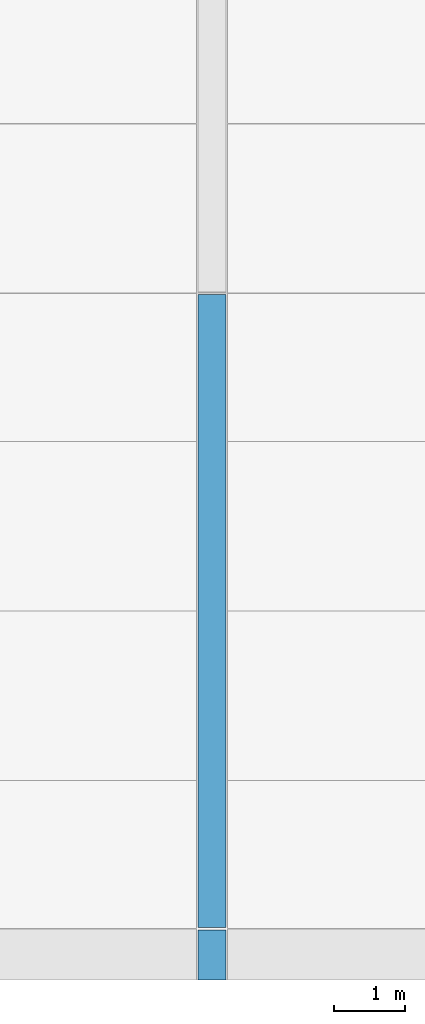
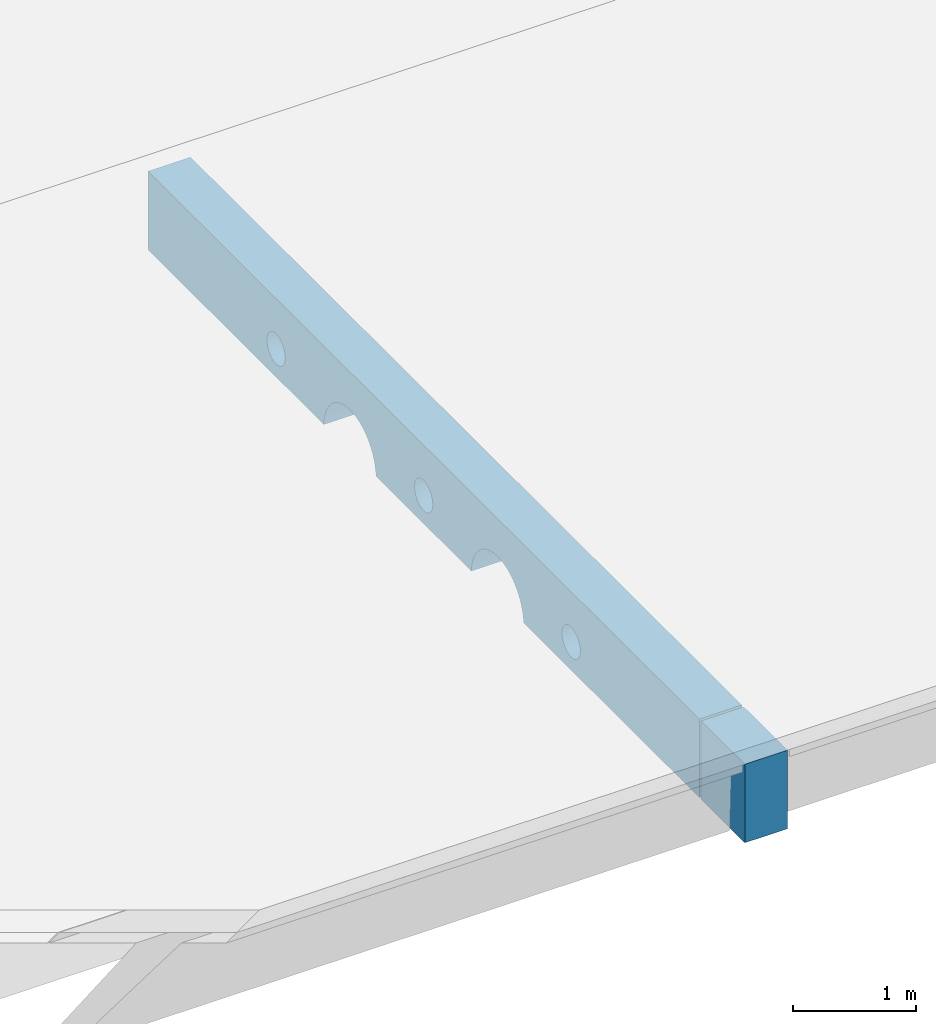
# One storey, part 1 of 4: 2 beams.
"""IFC2X3 building model written with IfcOpenShell, lengths in millimetres."""

from ifc_helpers import new_model, entity, si_unit, converted_unit, derived_unit, direction, frame, origin_with_axes, place, context, subcontext, project, spatial, faceted_brep, type_object, element, save


model = new_model("IFC2X3")

# Units and contexts
model_context = context("Model", 3, precision=0.01, world=frame((0.0, 4.29681676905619e-09, 0.0)), true_north=direction((4.01073788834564e-13, 1.0)))
plan_context = context("Plan", 3, precision=0.01, world=frame((0.0, 4.29681676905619e-09, 0.0)), true_north=direction((4.01073788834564e-13, 1.0)))
body_context = subcontext(model_context, "Body", "Model", "MODEL_VIEW")
ifc_project = project(units=[converted_unit("PLANEANGLEUNIT", "DEGREE", entity("IfcPositiveLengthMeasure", 0.0174532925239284), si_unit("PLANEANGLEUNIT", "RADIAN"), dimensions=[0, 0, 0, 0, 0, 0, 0]), si_unit("AREAUNIT", "SQUARE_METRE"), si_unit("LENGTHUNIT", "METRE", prefix="MILLI"), si_unit("MASSUNIT", "GRAM", prefix="KILO"), si_unit("POWERUNIT", "WATT"), si_unit("PRESSUREUNIT", "PASCAL"), si_unit("FORCEUNIT", "NEWTON", prefix="KILO"), si_unit("ELECTRICVOLTAGEUNIT", "VOLT"), si_unit("ELECTRICCURRENTUNIT", "AMPERE"), si_unit("THERMODYNAMICTEMPERATUREUNIT", "DEGREE_CELSIUS"), si_unit("TIMEUNIT", "SECOND"), si_unit("VOLUMEUNIT", "CUBIC_METRE"), derived_unit("LINEARVELOCITYUNIT", [(si_unit("LENGTHUNIT", "METRE"), 1), (si_unit("TIMEUNIT", "SECOND"), -1)]), derived_unit("VOLUMETRICFLOWRATEUNIT", [(si_unit("VOLUMEUNIT", "CUBIC_METRE"), 1), (si_unit("TIMEUNIT", "SECOND"), -1)]), derived_unit("THERMALTRANSMITTANCEUNIT", [(si_unit("POWERUNIT", "WATT"), 1), (si_unit("THERMODYNAMICTEMPERATUREUNIT", "KELVIN"), -1), (si_unit("AREAUNIT", "SQUARE_METRE"), -1)]), derived_unit("SOUNDPRESSUREUNIT", [(si_unit("PRESSUREUNIT", "PASCAL"), 1)])], contexts=[model_context, plan_context])

# Site, building, storey
site_placement = place(None, frame((0.0, -4.29681676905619e-09, 0.0), z_axis=(0.0, 0.0, 1.0), x_axis=(1.0, 0.0, 0.0)))
site = spatial("IfcSite", under=ifc_project, at=site_placement, Name="Gardermoen", CompositionType="ELEMENT")
building_placement = place(site_placement, frame((0.0, 4.29681676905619e-09, 0.0), z_axis=(0.0, 0.0, 1.0), x_axis=(1.0, 0.0, 0.0)))
building = spatial("IfcBuilding", under=site, at=building_placement, Name="TS", CompositionType="ELEMENT")
storey_placement = place(building_placement, origin_with_axes())
storey = spatial("IfcBuildingStorey", under=building, at=storey_placement, Name="F", CompositionType="ELEMENT", Elevation=0.0)

# Beams
beam_type = type_object("IfcBeamType", Name="DLB400*1500-800*700", PredefinedType="NOTDEFINED")
beam_1_placement = place(storey_placement, frame((528999.999766, 450484.995625, 209930.0), z_axis=(0.0, 0.0, 1.0), x_axis=(0.0, -1.0, 0.0)))
element("IfcBeam", 1, at=beam_1_placement, inside=storey, type_object=beam_type, Name="PREFABBJELKE", ObjectType="DLB400*1500-800*700", context=body_context, shape_type="Brep", body=[
    faceted_brep([(7023.5819298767, -200.0, 192.597485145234), (7023.5819298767, 200.0, 192.597485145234), (7032.11779206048, 200.0, 220.736451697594), (7032.11779206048, -200.0, 220.736451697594), (7035.0, 200.0, 250.0), (7035.0, -200.0, 250.0), (7032.11779206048, 200.0, 279.263548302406), (7032.11779206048, -200.0, 279.263548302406), (7023.5819298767, 200.0, 307.402514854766), (7023.5819298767, -200.0, 307.402514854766), (7009.72044184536, 200.0, 333.33553495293), (7009.72044184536, -200.0, 333.33553495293), (6991.066017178, 200.0, 356.066017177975), (6991.066017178, -200.0, 356.066017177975), (6968.33553495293, 200.0, 374.720441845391), (6968.33553495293, -200.0, 374.720441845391), (6942.40251485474, 200.0, 388.581929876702), (6942.40251485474, -200.0, 388.581929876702), (6914.26354830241, 200.0, 397.117792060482), (6914.26354830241, -200.0, 397.117792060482), (6885.0, 200.0, 400.0), (6885.0, -200.0, 400.0), (6855.73645169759, 200.0, 397.117792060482), (6855.73645169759, -200.0, 397.117792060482), (6827.59748514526, 200.0, 388.581929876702), (6827.59748514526, -200.0, 388.581929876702), (6801.66446504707, 200.0, 374.720441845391), (6801.66446504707, -200.0, 374.720441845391), (6778.933982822, 200.0, 356.066017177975), (6778.933982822, -200.0, 356.066017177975), (6760.27955815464, 200.0, 333.33553495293), (6760.27955815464, -200.0, 333.33553495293), (6746.4180701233, 200.0, 307.402514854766), (6746.4180701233, -200.0, 307.402514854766), (6737.88220793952, 200.0, 279.263548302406), (6737.88220793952, -200.0, 279.263548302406), (6735.0, 200.0, 250.0), (6735.0, -200.0, 250.0), (6737.88220793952, 200.0, 220.736451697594), (6737.88220793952, -200.0, 220.736451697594), (6746.4180701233, 200.0, 192.597485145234), (6746.4180701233, -200.0, 192.597485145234), (6760.27955815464, 200.0, 166.66446504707), (6760.27955815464, -200.0, 166.66446504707), (6778.933982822, 200.0, 143.933982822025), (6778.933982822, -200.0, 143.933982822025), (6801.66446504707, 200.0, 125.279558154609), (6801.66446504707, -200.0, 125.279558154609), (6827.59748514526, 200.0, 111.418070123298), (6827.59748514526, -200.0, 111.418070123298), (6855.73645169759, 200.0, 102.882207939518), (6855.73645169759, -200.0, 102.882207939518), (6885.0, 200.0, 100.0), (6885.0, -200.0, 100.0), (6914.26354830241, 200.0, 102.882207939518), (6914.26354830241, -200.0, 102.882207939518), (6942.40251485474, 200.0, 111.418070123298), (6942.40251485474, -200.0, 111.418070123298), (6968.33553495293, 200.0, 125.279558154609), (6968.33553495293, -200.0, 125.279558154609), (6991.066017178, 200.0, 143.933982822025), (6991.066017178, -200.0, 143.933982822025), (7009.72044184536, 200.0, 166.66446504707), (7009.72044184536, -200.0, 166.66446504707), (3706.36406608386, -200.0, 5.47363169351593), (3706.36406608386, 200.0, 5.47363169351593), (3695.51847617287, 200.0, 59.998094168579), (3695.51847617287, -200.0, 59.998094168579), (3708.68913074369, -200.0, -30.0), (3708.68913074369, 200.0, -30.0), (2861.31086925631, 200.0, -30.0), (2861.31086925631, -200.0, -30.0), (2863.63593391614, -200.0, 5.47363169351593), (2863.63593391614, 200.0, 5.47363169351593), (2874.48152382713, -200.0, 59.998094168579), (2874.48152382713, 200.0, 59.998094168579), (2892.35119868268, -200.0, 112.640458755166), (2892.35119868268, 200.0, 112.640458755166), (2916.93920339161, -200.0, 162.5), (2916.93920339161, 200.0, 162.5), (2947.82483037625, -200.0, 208.72360732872), (2947.82483037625, 200.0, 208.72360732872), (2984.47961799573, -200.0, 250.520382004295), (2984.47961799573, 200.0, 250.520382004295), (3026.27639267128, -200.0, 287.175169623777), (3026.27639267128, 200.0, 287.175169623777), (3072.5, -200.0, 318.060796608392), (3072.5, 200.0, 318.060796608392), (3122.35954124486, -200.0, 342.648801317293), (3122.35954124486, 200.0, 342.648801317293), (3175.00190583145, -200.0, 360.518476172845), (3175.00190583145, 200.0, 360.518476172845), (3229.52636830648, -200.0, 371.364066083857), (3229.52636830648, 200.0, 371.364066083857), (3285.0, -200.0, 375.0), (3285.0, 200.0, 375.0), (3340.47363169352, -200.0, 371.364066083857), (3340.47363169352, 200.0, 371.364066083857), (3394.99809416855, -200.0, 360.518476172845), (3394.99809416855, 200.0, 360.518476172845), (3447.64045875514, -200.0, 342.648801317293), (3447.64045875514, 200.0, 342.648801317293), (3497.5, -200.0, 318.060796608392), (3497.5, 200.0, 318.060796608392), (3543.72360732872, -200.0, 287.175169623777), (3543.72360732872, 200.0, 287.175169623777), (3585.52038200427, -200.0, 250.520382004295), (3585.52038200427, 200.0, 250.520382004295), (3622.17516962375, -200.0, 208.72360732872), (3622.17516962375, 200.0, 208.72360732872), (3653.06079660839, -200.0, 162.5), (3653.06079660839, 200.0, 162.5), (3677.64880131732, -200.0, 112.640458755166), (3677.64880131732, 200.0, 112.640458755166), (8970.0, 200.0, -30.0), (8970.0, -200.0, -30.0), (8970.0, -200.0, 750.0), (8970.0, 200.0, 750.0), (0.0, -200.0, 750.0), (0.0, 200.0, 750.0), (0.0, -200.0, -30.0), (0.0, 200.0, -30.0), (5261.31086925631, 200.0, -30.0), (5261.31086925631, -200.0, -30.0), (5263.63593391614, -200.0, 5.47363169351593), (5263.63593391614, 200.0, 5.47363169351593), (5274.48152382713, -200.0, 59.998094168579), (5274.48152382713, 200.0, 59.998094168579), (5292.35119868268, -200.0, 112.640458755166), (5292.35119868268, 200.0, 112.640458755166), (5316.93920339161, -200.0, 162.5), (5316.93920339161, 200.0, 162.5), (5347.82483037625, -200.0, 208.72360732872), (5347.82483037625, 200.0, 208.72360732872), (5384.47961799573, -200.0, 250.520382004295), (5384.47961799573, 200.0, 250.520382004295), (5426.27639267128, -200.0, 287.175169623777), (5426.27639267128, 200.0, 287.175169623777), (5472.5, -200.0, 318.060796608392), (5472.5, 200.0, 318.060796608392), (5522.35954124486, -200.0, 342.648801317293), (5522.35954124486, 200.0, 342.648801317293), (5575.00190583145, -200.0, 360.518476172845), (5575.00190583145, 200.0, 360.518476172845), (5629.52636830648, -200.0, 371.364066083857), (5629.52636830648, 200.0, 371.364066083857), (5685.0, -200.0, 375.0), (5685.0, 200.0, 375.0), (5740.47363169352, -200.0, 371.364066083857), (5740.47363169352, 200.0, 371.364066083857), (5794.99809416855, -200.0, 360.518476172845), (5794.99809416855, 200.0, 360.518476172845), (5847.64045875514, -200.0, 342.648801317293), (5847.64045875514, 200.0, 342.648801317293), (5897.5, -200.0, 318.060796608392), (5897.5, 200.0, 318.060796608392), (5943.72360732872, -200.0, 287.175169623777), (5943.72360732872, 200.0, 287.175169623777), (5985.52038200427, -200.0, 250.520382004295), (5985.52038200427, 200.0, 250.520382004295), (6022.17516962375, -200.0, 208.72360732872), (6022.17516962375, 200.0, 208.72360732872), (6053.06079660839, -200.0, 162.5), (6053.06079660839, 200.0, 162.5), (6077.64880131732, -200.0, 112.640458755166), (6077.64880131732, 200.0, 112.640458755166), (6095.51847617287, -200.0, 59.998094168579), (6095.51847617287, 200.0, 59.998094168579), (6106.36406608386, -200.0, 5.47363169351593), (6106.36406608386, 200.0, 5.47363169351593), (6108.68913074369, -200.0, -30.0), (6108.68913074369, 200.0, -30.0), (4635.0, -200.0, 250.0), (4635.0, 200.0, 250.0), (4632.11779206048, 200.0, 279.263548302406), (4632.11779206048, -200.0, 279.263548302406), (4632.11779206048, -200.0, 220.736451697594), (4632.11779206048, 200.0, 220.736451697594), (4623.5819298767, -200.0, 192.597485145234), (4623.5819298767, 200.0, 192.597485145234), (4609.72044184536, -200.0, 166.66446504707), (4609.72044184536, 200.0, 166.66446504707), (4591.066017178, -200.0, 143.933982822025), (4591.066017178, 200.0, 143.933982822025), (4568.33553495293, -200.0, 125.279558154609), (4568.33553495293, 200.0, 125.279558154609), (4542.40251485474, -200.0, 111.418070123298), (4542.40251485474, 200.0, 111.418070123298), (4514.26354830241, -200.0, 102.882207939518), (4514.26354830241, 200.0, 102.882207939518), (4485.0, -200.0, 100.0), (4485.0, 200.0, 100.0), (4455.73645169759, -200.0, 102.882207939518), (4455.73645169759, 200.0, 102.882207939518), (4427.59748514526, -200.0, 111.418070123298), (4427.59748514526, 200.0, 111.418070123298), (4401.66446504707, -200.0, 125.279558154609), (4401.66446504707, 200.0, 125.279558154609), (4378.933982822, -200.0, 143.933982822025), (4378.933982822, 200.0, 143.933982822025), (4360.27955815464, -200.0, 166.66446504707), (4360.27955815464, 200.0, 166.66446504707), (4346.4180701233, -200.0, 192.597485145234), (4346.4180701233, 200.0, 192.597485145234), (4337.88220793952, -200.0, 220.736451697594), (4337.88220793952, 200.0, 220.736451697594), (4335.0, -200.0, 250.0), (4335.0, 200.0, 250.0), (4337.88220793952, -200.0, 279.263548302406), (4337.88220793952, 200.0, 279.263548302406), (4346.4180701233, -200.0, 307.402514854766), (4346.4180701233, 200.0, 307.402514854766), (4360.27955815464, -200.0, 333.33553495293), (4360.27955815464, 200.0, 333.33553495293), (4378.933982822, -200.0, 356.066017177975), (4378.933982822, 200.0, 356.066017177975), (4401.66446504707, -200.0, 374.720441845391), (4401.66446504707, 200.0, 374.720441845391), (4427.59748514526, -200.0, 388.581929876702), (4427.59748514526, 200.0, 388.581929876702), (4455.73645169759, -200.0, 397.117792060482), (4455.73645169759, 200.0, 397.117792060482), (4485.0, -200.0, 400.0), (4485.0, 200.0, 400.0), (4514.26354830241, -200.0, 397.117792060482), (4514.26354830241, 200.0, 397.117792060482), (4542.40251485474, -200.0, 388.581929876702), (4542.40251485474, 200.0, 388.581929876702), (4568.33553495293, -200.0, 374.720441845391), (4568.33553495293, 200.0, 374.720441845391), (4591.066017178, -200.0, 356.066017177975), (4591.066017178, 200.0, 356.066017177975), (4609.72044184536, -200.0, 333.33553495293), (4609.72044184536, 200.0, 333.33553495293), (4623.5819298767, -200.0, 307.402514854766), (4623.5819298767, 200.0, 307.402514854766), (2232.11779206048, -200.0, 220.736451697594), (2235.0, -200.0, 250.0), (2232.11779206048, -200.0, 279.263548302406), (2223.5819298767, -200.0, 307.402514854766), (2209.72044184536, -200.0, 333.33553495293), (2191.066017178, -200.0, 356.066017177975), (2168.33553495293, -200.0, 374.720441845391), (2142.40251485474, -200.0, 388.581929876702), (2114.26354830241, -200.0, 397.117792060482), (2085.0, -200.0, 400.0), (2055.73645169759, -200.0, 397.117792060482), (2027.59748514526, -200.0, 388.581929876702), (2001.66446504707, -200.0, 374.720441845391), (1978.933982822, -200.0, 356.066017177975), (1960.27955815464, -200.0, 333.33553495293), (1946.4180701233, -200.0, 307.402514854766), (1937.88220793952, -200.0, 279.263548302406), (1935.0, -200.0, 250.0), (1937.88220793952, -200.0, 220.736451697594), (1946.4180701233, -200.0, 192.597485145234), (1960.27955815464, -200.0, 166.66446504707), (1978.933982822, -200.0, 143.933982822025), (2001.66446504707, -200.0, 125.279558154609), (2027.59748514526, -200.0, 111.418070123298), (2055.73645169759, -200.0, 102.882207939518), (2085.0, -200.0, 100.0), (2114.26354830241, -200.0, 102.882207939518), (2142.40251485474, -200.0, 111.418070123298), (2168.33553495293, -200.0, 125.279558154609), (2191.066017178, -200.0, 143.933982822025), (2209.72044184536, -200.0, 166.66446504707), (2223.5819298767, -200.0, 192.597485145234), (2232.11779206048, 200.0, 279.263548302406), (2223.5819298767, 200.0, 307.402514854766), (2235.0, 200.0, 250.0), (2232.11779206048, 200.0, 220.736451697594), (2223.5819298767, 200.0, 192.597485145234), (2209.72044184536, 200.0, 166.66446504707), (2191.066017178, 200.0, 143.933982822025), (2168.33553495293, 200.0, 125.279558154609), (2142.40251485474, 200.0, 111.418070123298), (2114.26354830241, 200.0, 102.882207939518), (2085.0, 200.0, 100.0), (2055.73645169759, 200.0, 102.882207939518), (2027.59748514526, 200.0, 111.418070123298), (2001.66446504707, 200.0, 125.279558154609), (1978.933982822, 200.0, 143.933982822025), (1960.27955815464, 200.0, 166.66446504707), (1946.4180701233, 200.0, 192.597485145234), (1937.88220793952, 200.0, 220.736451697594), (1935.0, 200.0, 250.0), (1937.88220793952, 200.0, 279.263548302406), (1946.4180701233, 200.0, 307.402514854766), (1960.27955815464, 200.0, 333.33553495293), (1978.933982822, 200.0, 356.066017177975), (2001.66446504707, 200.0, 374.720441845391), (2027.59748514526, 200.0, 388.581929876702), (2055.73645169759, 200.0, 397.117792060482), (2085.0, 200.0, 400.0), (2114.26354830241, 200.0, 397.117792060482), (2142.40251485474, 200.0, 388.581929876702), (2168.33553495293, 200.0, 374.720441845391), (2191.066017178, 200.0, 356.066017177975), (2209.72044184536, 200.0, 333.33553495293)], [[[0, 1, 2, 3]], [[3, 2, 4, 5]], [[5, 4, 6, 7]], [[7, 6, 8, 9]], [[9, 8, 10, 11]], [[11, 10, 12, 13]], [[13, 12, 14, 15]], [[15, 14, 16, 17]], [[17, 16, 18, 19]], [[19, 18, 20, 21]], [[21, 20, 22, 23]], [[23, 22, 24, 25]], [[25, 24, 26, 27]], [[27, 26, 28, 29]], [[29, 28, 30, 31]], [[31, 30, 32, 33]], [[33, 32, 34, 35]], [[35, 34, 36, 37]], [[37, 36, 38, 39]], [[39, 38, 40, 41]], [[41, 40, 42, 43]], [[43, 42, 44, 45]], [[45, 44, 46, 47]], [[47, 46, 48, 49]], [[49, 48, 50, 51]], [[51, 50, 52, 53]], [[53, 52, 54, 55]], [[55, 54, 56, 57]], [[57, 56, 58, 59]], [[59, 58, 60, 61]], [[61, 60, 62, 63]], [[63, 62, 1, 0]], [[64, 65, 66, 67]], [[68, 69, 65, 64]], [[70, 71, 72, 73]], [[74, 75, 73, 72]], [[76, 77, 75, 74]], [[78, 79, 77, 76]], [[80, 81, 79, 78]], [[82, 83, 81, 80]], [[84, 85, 83, 82]], [[86, 87, 85, 84]], [[88, 89, 87, 86]], [[90, 91, 89, 88]], [[92, 93, 91, 90]], [[94, 95, 93, 92]], [[96, 97, 95, 94]], [[98, 99, 97, 96]], [[100, 101, 99, 98]], [[102, 103, 101, 100]], [[104, 105, 103, 102]], [[106, 107, 105, 104]], [[108, 109, 107, 106]], [[110, 111, 109, 108]], [[112, 113, 111, 110]], [[67, 66, 113, 112]], [[114, 115, 116, 117]], [[117, 116, 118, 119]], [[120, 121, 119, 118]], [[122, 123, 124, 125]], [[126, 127, 125, 124]], [[128, 129, 127, 126]], [[130, 131, 129, 128]], [[132, 133, 131, 130]], [[134, 135, 133, 132]], [[136, 137, 135, 134]], [[138, 139, 137, 136]], [[140, 141, 139, 138]], [[142, 143, 141, 140]], [[144, 145, 143, 142]], [[146, 147, 145, 144]], [[148, 149, 147, 146]], [[150, 151, 149, 148]], [[152, 153, 151, 150]], [[154, 155, 153, 152]], [[156, 157, 155, 154]], [[158, 159, 157, 156]], [[160, 161, 159, 158]], [[162, 163, 161, 160]], [[164, 165, 163, 162]], [[166, 167, 165, 164]], [[168, 169, 167, 166]], [[170, 171, 169, 168]], [[172, 173, 174, 175]], [[176, 177, 173, 172]], [[178, 179, 177, 176]], [[180, 181, 179, 178]], [[182, 183, 181, 180]], [[184, 185, 183, 182]], [[186, 187, 185, 184]], [[188, 189, 187, 186]], [[190, 191, 189, 188]], [[192, 193, 191, 190]], [[194, 195, 193, 192]], [[196, 197, 195, 194]], [[198, 199, 197, 196]], [[200, 201, 199, 198]], [[202, 203, 201, 200]], [[204, 205, 203, 202]], [[206, 207, 205, 204]], [[208, 209, 207, 206]], [[210, 211, 209, 208]], [[212, 213, 211, 210]], [[214, 215, 213, 212]], [[216, 217, 215, 214]], [[218, 219, 217, 216]], [[220, 221, 219, 218]], [[222, 223, 221, 220]], [[224, 225, 223, 222]], [[226, 227, 225, 224]], [[228, 229, 227, 226]], [[230, 231, 229, 228]], [[232, 233, 231, 230]], [[234, 235, 233, 232]], [[175, 174, 235, 234]], [[71, 120, 118, 116, 115, 170, 168, 166, 164, 162, 160, 158, 156, 154, 152, 150, 148, 146, 144, 142, 140, 138, 136, 134, 132, 130, 128, 126, 124, 123, 68, 64, 67, 112, 110, 108, 106, 104, 102, 100, 98, 96, 94, 92, 90, 88, 86, 84, 82, 80, 78, 76, 74, 72], [3, 5, 7, 9, 11, 13, 15, 17, 19, 21, 23, 25, 27, 29, 31, 33, 35, 37, 39, 41, 43, 45, 47, 49, 51, 53, 55, 57, 59, 61, 63, 0], [236, 237, 238, 239, 240, 241, 242, 243, 244, 245, 246, 247, 248, 249, 250, 251, 252, 253, 254, 255, 256, 257, 258, 259, 260, 261, 262, 263, 264, 265, 266, 267], [176, 172, 175, 234, 232, 230, 228, 226, 224, 222, 220, 218, 216, 214, 212, 210, 208, 206, 204, 202, 200, 198, 196, 194, 192, 190, 188, 186, 184, 182, 180, 178]], [[238, 268, 269, 239]], [[237, 270, 268, 238]], [[236, 271, 270, 237]], [[267, 272, 271, 236]], [[266, 273, 272, 267]], [[265, 274, 273, 266]], [[264, 275, 274, 265]], [[263, 276, 275, 264]], [[262, 277, 276, 263]], [[261, 278, 277, 262]], [[260, 279, 278, 261]], [[259, 280, 279, 260]], [[258, 281, 280, 259]], [[257, 282, 281, 258]], [[256, 283, 282, 257]], [[255, 284, 283, 256]], [[254, 285, 284, 255]], [[253, 286, 285, 254]], [[252, 287, 286, 253]], [[251, 288, 287, 252]], [[250, 289, 288, 251]], [[249, 290, 289, 250]], [[248, 291, 290, 249]], [[247, 292, 291, 248]], [[246, 293, 292, 247]], [[245, 294, 293, 246]], [[244, 295, 294, 245]], [[243, 296, 295, 244]], [[242, 297, 296, 243]], [[241, 298, 297, 242]], [[240, 299, 298, 241]], [[239, 269, 299, 240]], [[69, 122, 125, 127, 129, 131, 133, 135, 137, 139, 141, 143, 145, 147, 149, 151, 153, 155, 157, 159, 161, 163, 165, 167, 169, 171, 114, 117, 119, 121, 70, 73, 75, 77, 79, 81, 83, 85, 87, 89, 91, 93, 95, 97, 99, 101, 103, 105, 107, 109, 111, 113, 66, 65], [6, 4, 2, 1, 62, 60, 58, 56, 54, 52, 50, 48, 46, 44, 42, 40, 38, 36, 34, 32, 30, 28, 26, 24, 22, 20, 18, 16, 14, 12, 10, 8], [268, 270, 271, 272, 273, 274, 275, 276, 277, 278, 279, 280, 281, 282, 283, 284, 285, 286, 287, 288, 289, 290, 291, 292, 293, 294, 295, 296, 297, 298, 299, 269], [174, 173, 177, 179, 181, 183, 185, 187, 189, 191, 193, 195, 197, 199, 201, 203, 205, 207, 209, 211, 213, 215, 217, 219, 221, 223, 225, 227, 229, 231, 233, 235]], [[123, 122, 69, 68]], [[121, 120, 71, 70]], [[171, 170, 115, 114]]], orient=[[False], [False], [False], [False], [False], [False], [False], [False], [False], [False], [False], [False], [False], [False], [False], [False], [False], [False], [False], [False], [False], [False], [False], [False], [False], [False], [False], [False], [False], [False], [False], [False], [False], [False], [False], [False], [False], [False], [False], [False], [False], [False], [False], [False], [False], [False], [False], [False], [False], [False], [False], [False], [False], [False], [False], [False], [False], [False], [False], [False], [False], [False], [False], [False], [False], [False], [False], [False], [False], [False], [False], [False], [False], [False], [False], [False], [False], [False], [False], [False], [False], [False], [False], [False], [False], [False], [False], [False], [False], [False], [False], [False], [False], [False], [False], [False], [False], [False], [False], [False], [False], [False], [False], [False], [False], [False], [False], [False], [False], [False], [False], [False], [False], [False], [False], [False, False, False, False], [False], [False], [False], [False], [False], [False], [False], [False], [False], [False], [False], [False], [False], [False], [False], [False], [False], [False], [False], [False], [False], [False], [False], [False], [False], [False], [False], [False], [False], [False], [False], [False], [False, False, False, False], [False], [False], [False]]),
])
beam_2_placement = place(storey_placement, frame((528999.999766, 441484.995625, 209930.0), z_axis=(0.0, 0.0, 1.0), x_axis=(0.0, -1.0, 0.0)))
element("IfcBeam", 2, at=beam_2_placement, inside=storey, type_object=beam_type, Name="PREFABBJELKE", ObjectType="DLB400*1500-800*700", context=body_context, shape_type="Brep", body=[
    faceted_brep([(709.995625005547, 200.0, 750.0), (709.995625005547, -200.0, 750.0), (0.0, -200.0, 750.0), (0.0, 200.0, 750.0), (0.0, -200.0, -30.0), (0.0, 200.0, -30.0), (709.995625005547, -200.0, -30.0), (709.995625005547, 200.0, -30.0)], [[[0, 1, 2, 3]], [[4, 5, 3, 2]], [[1, 6, 4, 2]], [[5, 7, 0, 3]], [[6, 1, 0, 7]], [[7, 5, 4, 6]]], orient=[[False], [False], [False], [False], [False], [False]]),
])

save(model, "model.ifc")
